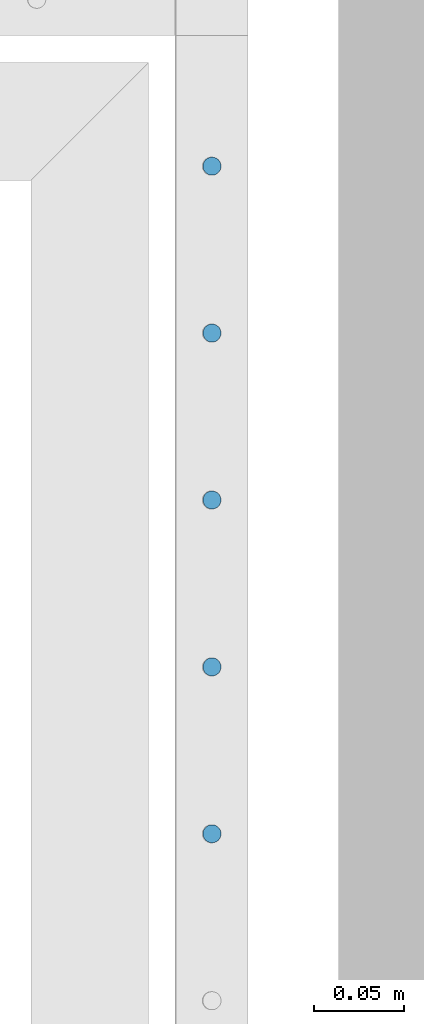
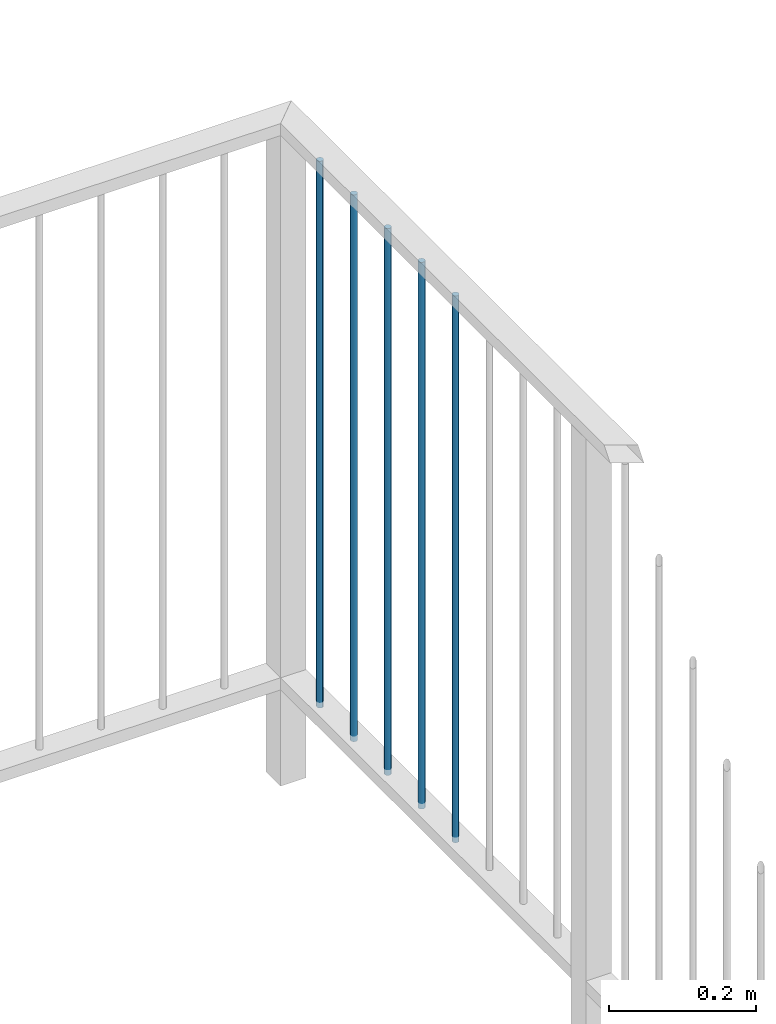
# One storey, part 44 of 135: 5 members, 1 element without a shape of its own.
"""IFC2X3 building model written with IfcOpenShell, lengths in millimetres."""

from ifc_helpers import new_model, entity, si_unit, converted_unit, derived_unit, money_unit, direction, frame, origin_with_axes, place, context, subcontext, project, spatial, faceted_brep, source, transform, mapped, material, type_object, type_shapes, element, aggregate, save


model = new_model("IFC2X3")

# Units and contexts
model_context = context("Model", 3, precision=0.01, world=origin_with_axes(), true_north=direction((0.0, 1.0)))
body_context = subcontext(model_context, "Body", "Model", "MODEL_VIEW")
ifc_project = project(units=[si_unit("LENGTHUNIT", "METRE", prefix="MILLI"), si_unit("AREAUNIT", "SQUARE_METRE"), si_unit("VOLUMEUNIT", "CUBIC_METRE"), converted_unit("PLANEANGLEUNIT", "DEGREE", entity("IfcPlaneAngleMeasure", 0.0174532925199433), si_unit("PLANEANGLEUNIT", "RADIAN"), dimensions=[0, 0, 0, 0, 0, 0, 0]), money_unit("EUR"), converted_unit("TIMEUNIT", "Year", entity("IfcTimeMeasure", 31557600.0), si_unit("TIMEUNIT", "SECOND"), dimensions=[0, 0, 1, 0, 0, 0, 0]), si_unit("MASSUNIT", "GRAM", prefix="KILO"), si_unit("THERMODYNAMICTEMPERATUREUNIT", "DEGREE_CELSIUS"), si_unit("LUMINOUSINTENSITYUNIT", "LUMEN"), si_unit("ENERGYUNIT", "JOULE", prefix="MEGA"), derived_unit("THERMALCONDUCTANCEUNIT", [(si_unit("POWERUNIT", "WATT"), 1), (si_unit("LENGTHUNIT", "METRE"), -1), (si_unit("THERMODYNAMICTEMPERATUREUNIT", "KELVIN"), -1)]), derived_unit("SPECIFICHEATCAPACITYUNIT", [(si_unit("ENERGYUNIT", "JOULE"), 1), (si_unit("MASSUNIT", "GRAM", prefix="KILO"), -1), (si_unit("THERMODYNAMICTEMPERATUREUNIT", "KELVIN"), -1)]), derived_unit("MASSDENSITYUNIT", [(si_unit("MASSUNIT", "GRAM", prefix="KILO"), 1), (si_unit("VOLUMEUNIT", "CUBIC_METRE"), -1)])], contexts=[model_context])

# Site, building, storey
site_placement = place(None, origin_with_axes())
site = spatial("IfcSite", under=ifc_project, at=site_placement, Name="Site", CompositionType="ELEMENT")
building_placement = place(site_placement, origin_with_axes())
building = spatial("IfcBuilding", under=site, at=building_placement, Name="Naam gebouw", CompositionType="ELEMENT")
storey_placement = place(building_placement, origin_with_axes())
storey = spatial("IfcBuildingStorey", under=building, at=storey_placement, Name="Begane grond N", CompositionType="ELEMENT", Elevation=0.0)

# Railing, members
railing_type = type_object("IfcRailingType", Name="Railing Type", PredefinedType="NOTDEFINED")
railing_placement = place(storey_placement, frame((56236.62159597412, 21185.9124251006, 4176.0), z_axis=(0.0, 0.0, 1.0), x_axis=(1.0, 0.0, 0.0)))
railing = element("IfcRailing", 1, at=railing_placement, inside=storey, type_object=railing_type, Name="_Reling-x", PredefinedType="NOTDEFINED")
ifc_material = material(Name="Metaal - Staal C")
member_type = type_object("IfcMemberType", Name="IfcMember", PredefinedType="MEMBER")
shared_shape = source(origin_with_axes(), body_context, "Body", "Brep", [
    faceted_brep([(0.0, -5.0, 0.0), (0.8682408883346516, -4.92403876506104, 0.0), (0.868240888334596, -4.92403876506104, 907.5000000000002), (0.0, -5.0, 907.5000000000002), (-0.868240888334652, -4.92403876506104, 0.0), (-1.710100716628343, -4.698463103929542, 0.0), (-2.500000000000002, -4.330127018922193, 0.0), (-3.213938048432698, -3.830222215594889, 0.0), (-3.830222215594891, -3.213938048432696, 0.0), (-4.330127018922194, -2.5, 0.0), (-4.698463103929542, -1.710100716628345, 0.0), (-4.924038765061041, -0.86824088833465, 0.0), (-5.0, 0.0, 0.0), (-4.92403876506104, 0.8682408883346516, 0.0), (-4.698463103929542, 1.710100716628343, 0.0), (-4.330127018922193, 2.500000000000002, 0.0), (-3.83022221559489, 3.213938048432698, 0.0), (-3.213938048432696, 3.83022221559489, 0.0), (-2.5, 4.330127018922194, 0.0), (-1.710100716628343, 4.698463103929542, 0.0), (-0.8682408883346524, 4.92403876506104, 0.0), (0.0, 5.0, 0.0), (0.8682408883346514, 4.92403876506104, 0.0), (1.710100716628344, 4.698463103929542, 0.0), (2.5, 4.330127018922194, 0.0), (3.213938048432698, 3.83022221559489, 0.0), (3.83022221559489, 3.213938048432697, 0.0), (4.330127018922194, 2.499999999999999, 0.0), (4.698463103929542, 1.710100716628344, 0.0), (4.92403876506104, 0.8682408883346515, 0.0), (5.0, 0.0, 0.0), (4.92403876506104, -0.8682408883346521, 0.0), (4.698463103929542, -1.710100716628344, 0.0), (4.330127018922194, -2.5, 0.0), (3.83022221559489, -3.213938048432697, 0.0), (3.213938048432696, -3.83022221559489, 0.0), (2.5, -4.330127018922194, 0.0), (1.710100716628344, -4.698463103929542, 0.0), (1.710100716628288, -4.698463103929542, 907.5000000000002), (2.499999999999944, -4.330127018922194, 907.5000000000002), (3.213938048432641, -3.83022221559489, 907.5000000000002), (3.830222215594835, -3.213938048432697, 907.5000000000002), (4.330127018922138, -2.5, 907.5000000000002), (4.698463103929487, -1.710100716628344, 907.5000000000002), (4.924038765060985, -0.8682408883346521, 907.5000000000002), (4.999999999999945, 0.0, 907.5000000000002), (4.924038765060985, 0.8682408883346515, 907.5000000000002), (4.698463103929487, 1.710100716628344, 907.5000000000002), (4.330127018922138, 2.499999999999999, 907.5000000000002), (3.830222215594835, 3.213938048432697, 907.5000000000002), (3.213938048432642, 3.83022221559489, 907.5000000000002), (2.499999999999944, 4.330127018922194, 907.5000000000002), (1.710100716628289, 4.698463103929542, 907.5000000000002), (0.8682408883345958, 4.92403876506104, 907.5000000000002), (0.0, 5.0, 907.5000000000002), (-0.868240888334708, 4.92403876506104, 907.5000000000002), (-1.710100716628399, 4.698463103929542, 907.5000000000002), (-2.500000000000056, 4.330127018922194, 907.5000000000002), (-3.213938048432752, 3.83022221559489, 907.5000000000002), (-3.830222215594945, 3.213938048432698, 907.5000000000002), (-4.330127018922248, 2.500000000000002, 907.5000000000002), (-4.698463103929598, 1.710100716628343, 907.5000000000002), (-4.924038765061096, 0.8682408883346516, 907.5000000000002), (-5.000000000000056, 0.0, 907.5000000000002), (-4.924038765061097, -0.86824088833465, 907.5000000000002), (-4.698463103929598, -1.710100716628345, 907.5000000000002), (-4.330127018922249, -2.5, 907.5000000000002), (-3.830222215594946, -3.213938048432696, 907.5000000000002), (-3.213938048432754, -3.830222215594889, 907.5000000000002), (-2.500000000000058, -4.330127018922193, 907.5000000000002), (-1.710100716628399, -4.698463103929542, 907.5000000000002), (-0.8682408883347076, -4.92403876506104, 907.5000000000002)], [[[0, 1, 2, 3]], [[0, 4, 5, 6, 7, 8, 9, 10, 11, 12, 13, 14, 15, 16, 17, 18, 19, 20, 21, 22, 23, 24, 25, 26, 27, 28, 29, 30, 31, 32, 33, 34, 35, 36, 37, 1]], [[1, 37, 38, 2]], [[3, 2, 38, 39, 40, 41, 42, 43, 44, 45, 46, 47, 48, 49, 50, 51, 52, 53, 54, 55, 56, 57, 58, 59, 60, 61, 62, 63, 64, 65, 66, 67, 68, 69, 70, 71]], [[4, 0, 3, 71]], [[5, 4, 71, 70]], [[6, 5, 70, 69]], [[7, 6, 69, 68]], [[8, 7, 68, 67]], [[9, 8, 67, 66]], [[10, 9, 66, 65]], [[11, 10, 65, 64]], [[12, 11, 64, 63]], [[13, 12, 63, 62]], [[14, 13, 62, 61]], [[15, 14, 61, 60]], [[16, 15, 60, 59]], [[17, 16, 59, 58]], [[18, 17, 58, 57]], [[19, 18, 57, 56]], [[20, 19, 56, 55]], [[21, 20, 55, 54]], [[22, 21, 54, 53]], [[23, 22, 53, 52]], [[24, 23, 52, 51]], [[25, 24, 51, 50]], [[26, 25, 50, 49]], [[27, 26, 49, 48]], [[28, 27, 48, 47]], [[29, 28, 47, 46]], [[30, 29, 46, 45]], [[31, 30, 45, 44]], [[32, 31, 44, 43]], [[33, 32, 43, 42]], [[34, 33, 42, 41]], [[35, 34, 41, 40]], [[36, 35, 40, 39]], [[37, 36, 39, 38]]]),
])
type_shapes(member_type, [shared_shape])
member_1_placement = place(railing_placement, frame((3908.378404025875, 2003.888888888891, 1806.673611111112), z_axis=(0.0, 0.0, 1.0), x_axis=(1.0, 0.0, 0.0)))
member_1 = element("IfcMember", 2, at=member_1_placement, type_object=member_type, material=ifc_material, Name="_Spijlen-x", ObjectType="MEMBER", context=body_context, shape_type="MappedRepresentation", body=[
    mapped(shared_shape, transform((0.0, 0.0, 0.0))),
])
member_2_placement = place(railing_placement, frame((3908.378404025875, 2096.111111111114, 1806.673611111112), z_axis=(0.0, 0.0, 1.0), x_axis=(1.0, 0.0, 0.0)))
member_2 = element("IfcMember", 3, at=member_2_placement, type_object=member_type, material=ifc_material, Name="_Spijlen-x", ObjectType="MEMBER", context=body_context, shape_type="MappedRepresentation", body=[
    mapped(shared_shape, transform((0.0, 0.0, 0.0))),
])
member_3_placement = place(railing_placement, frame((3908.378404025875, 2188.333333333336, 1806.673611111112), z_axis=(0.0, 0.0, 1.0), x_axis=(1.0, 0.0, 0.0)))
member_3 = element("IfcMember", 4, at=member_3_placement, type_object=member_type, material=ifc_material, Name="_Spijlen-x", ObjectType="MEMBER", context=body_context, shape_type="MappedRepresentation", body=[
    mapped(shared_shape, transform((0.0, 0.0, 0.0))),
])
member_4_placement = place(railing_placement, frame((3908.378404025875, 2280.555555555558, 1806.673611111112), z_axis=(0.0, 0.0, 1.0), x_axis=(1.0, 0.0, 0.0)))
member_4 = element("IfcMember", 5, at=member_4_placement, type_object=member_type, material=ifc_material, Name="_Spijlen-x", ObjectType="MEMBER", context=body_context, shape_type="MappedRepresentation", body=[
    mapped(shared_shape, transform((0.0, 0.0, 0.0))),
])
member_5_placement = place(railing_placement, frame((3908.378404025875, 2372.777777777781, 1806.673611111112), z_axis=(0.0, 0.0, 1.0), x_axis=(1.0, 0.0, 0.0)))
member_5 = element("IfcMember", 6, at=member_5_placement, type_object=member_type, material=ifc_material, Name="_Spijlen-x", ObjectType="MEMBER", context=body_context, shape_type="MappedRepresentation", body=[
    mapped(shared_shape, transform((0.0, 0.0, 0.0))),
])
aggregate(railing, [member_1, member_2, member_3, member_4, member_5])

save(model, "model.ifc")
